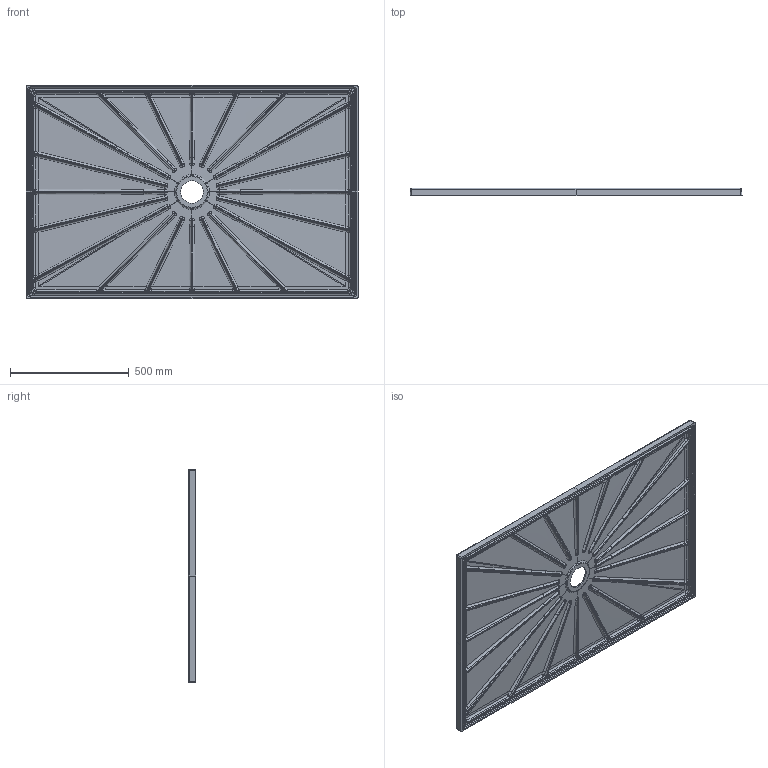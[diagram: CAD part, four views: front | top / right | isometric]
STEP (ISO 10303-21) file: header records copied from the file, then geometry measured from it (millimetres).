
FILE_DESCRIPTION(('CATIA V5 STEP Exchange'),'2;1');
FILE_NAME('C:\Users\167035\Downloads\3D ART1092.stp','2025-01-21T10:31:58+00:00',('none'),('none'),'CATIA Version 5 Release 19 SP 5 (IN-10)','CATIA V5 STEP AP214','none');
FILE_SCHEMA(('AUTOMOTIVE_DESIGN { 1 0 10303 214 1 1 1 1 }'));
Products named in the file (1): 140X90 H3 LISCIO
Bounding box: 1400 x 31.5 x 900 mm (x, y, z)
Volume: 20680303.1 mm3; surface area: 2881221.1 mm2
Topology: 1 solids, 1 shells, 942 faces, 2380 edges, 1328 vertices
Faces by surface type: bspline 588, cylinder 216, plane 66, sphere 44, torus 20, cone 8
Entity records: 98218 total; most frequent: CARTESIAN_POINT 82165, ORIENTED_EDGE 4528, EDGE_CURVE 2264, B_SPLINE_CURVE_WITH_KNOTS 1681, VERTEX_POINT 1328, DIRECTION 1129, EDGE_LOOP 948, ADVANCED_FACE 942
